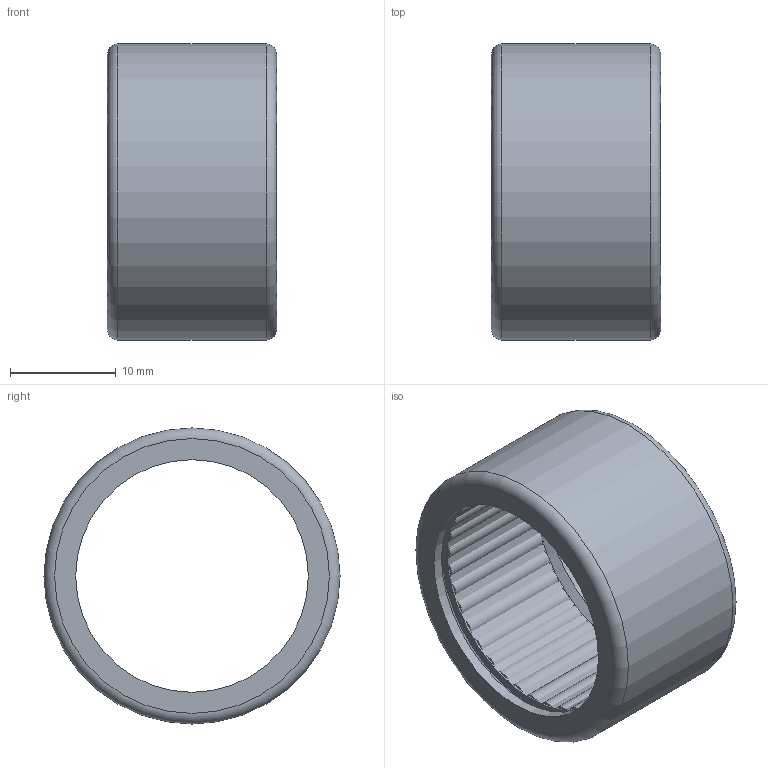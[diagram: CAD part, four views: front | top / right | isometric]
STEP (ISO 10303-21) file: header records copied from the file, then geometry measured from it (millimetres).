
FILE_DESCRIPTION(/* description */ (''),/* implementation_level */ '2;1');
FILE_NAME(/* name */ 'C:\Users\OUREHANEKD\Desktop\Ihlove loziska\HK-2RS\HK-2RS--\HK2216-2RS.stp',/* time_stamp */ '2016-10-07T11:08:17+02:00',/* author */ ('OUREHANEKD'),/* organization */ (''),/* preprocessor_version */ 'ST-DEVELOPER v15.6',/* originating_system */ 'Autodesk Inventor 2015',/* authorisation */ '');
FILE_SCHEMA (('AP203_CONFIGURATION_CONTROLLED_3D_DESIGN_OF_MECHANICAL_PARTS_AND_ASSEMBLIES_MIM_LF','AUTOMOTIVE_DESIGN { 1 0 10303 214 3 1 1 }'));
Length unit declared in the file: millimetre
Products named in the file (4): HK2216-2RS-01; HK2216-2RS-kl; HK2216-2RS-ihla; HK2216-2RS
Assembly tree (38 placements, depth 2):
  HK2216-2RS
    HK2216-2RS-01
    HK2216-2RS-kl
    HK2216-2RS-ihla  x36
Bounding box: 16 x 28 x 28 mm (x, y, z)
Volume: 4467.3 mm3; surface area: 8198.6 mm2
Topology: 38 solids, 38 shells, 124 faces, 134 edges, 88 vertices
Faces by surface type: plane 78, cylinder 42, torus 2, cone 2
Full cylindrical faces by diameter (mm): 1.992 x36, 22 x2, 22.5 x1, 25.484 x1, 25.984 x1, 28 x1
Entity records: 748 total; most frequent: DIRECTION 158, CARTESIAN_POINT 97, AXIS2_PLACEMENT_3D 79, PRODUCT_DEFINITION_SHAPE 42, ITEM_DEFINED_TRANSFORMATION 38, CONTEXT_DEPENDENT_SHAPE_REPRESENTATION 38, NEXT_ASSEMBLY_USAGE_OCCURRENCE 38, EDGE_LOOP 36
